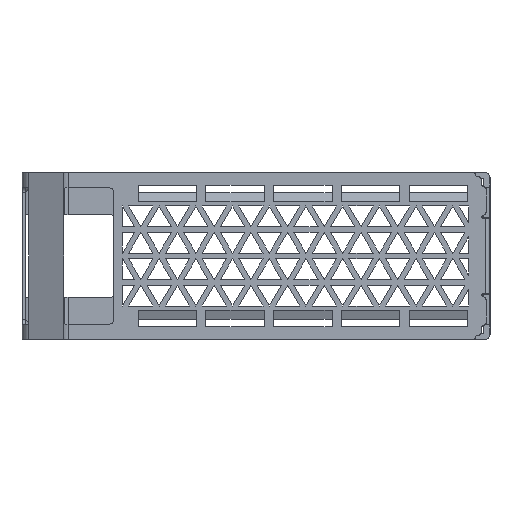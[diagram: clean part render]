
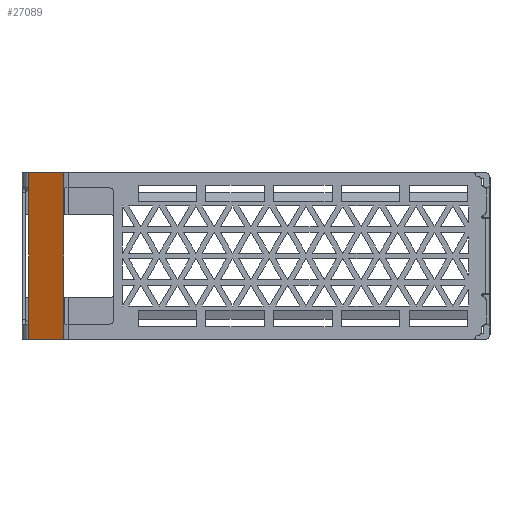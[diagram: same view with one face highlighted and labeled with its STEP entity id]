
A CAD part, left-side view. The second image highlights one B-rep face of the part: STEP entity #27089.
In plain terms, the highlighted planar face has unit normal (-0.905, 0.426, 0).
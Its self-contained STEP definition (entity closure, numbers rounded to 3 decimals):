
#1499 = VECTOR ( 'NONE', #13728, 1000. ) ;
#2578 = CARTESIAN_POINT ( 'NONE',  ( -60.051, 52.801, -9.9 ) ) ;
#5395 = EDGE_CURVE ( 'NONE', #8699, #24041, #10703, .T. ) ;
#5432 = EDGE_CURVE ( 'NONE', #25143, #12051, #15614, .T. ) ;
#5707 = ORIENTED_EDGE ( 'NONE', *, *, #5954, .T. ) ;
#5954 = EDGE_CURVE ( 'NONE', #25143, #24041, #16552, .T. ) ;
#6860 = CARTESIAN_POINT ( 'NONE',  ( -58.359, 56.393, -9.9 ) ) ;
#7561 = CARTESIAN_POINT ( 'NONE',  ( -58.359, 56.393, 16.3 ) ) ;
#7692 = EDGE_CURVE ( 'NONE', #16804, #8699, #17596, .T. ) ;
#7853 = VECTOR ( 'NONE', #9396, 1000. ) ;
#7967 = VECTOR ( 'NONE', #23390, 1000. ) ;
#8060 = AXIS2_PLACEMENT_3D ( 'NONE', #2578, #32628, #9685 ) ;
#8699 = VERTEX_POINT ( 'NONE', #7561 ) ;
#9396 = DIRECTION ( 'NONE',  ( 0., 0., 1. ) ) ;
#9685 = DIRECTION ( 'NONE',  ( 0., 0., 1. ) ) ;
#10703 = LINE ( 'NONE', #16102, #1499 ) ;
#11453 = CARTESIAN_POINT ( 'NONE',  ( -62.233, 48.169, -20. ) ) ;
#11498 = DIRECTION ( 'NONE',  ( 0.426, 0.905, 0. ) ) ;
#11768 = VECTOR ( 'NONE', #11498, 1000. ) ;
#12051 = VERTEX_POINT ( 'NONE', #11453 ) ;
#12564 = CARTESIAN_POINT ( 'NONE',  ( -62.233, 48.169, 20. ) ) ;
#13728 = DIRECTION ( 'NONE',  ( 0., 0., 1. ) ) ;
#13958 = DIRECTION ( 'NONE',  ( 0.426, 0.905, 0. ) ) ;
#14495 = VECTOR ( 'NONE', #22844, 1000. ) ;
#15614 = LINE ( 'NONE', #20838, #7967 ) ;
#15969 = ORIENTED_EDGE ( 'NONE', *, *, #7692, .F. ) ;
#16102 = CARTESIAN_POINT ( 'NONE',  ( -58.359, 56.393, -9.9 ) ) ;
#16552 = LINE ( 'NONE', #24336, #11768 ) ;
#16804 = VERTEX_POINT ( 'NONE', #26262 ) ;
#17596 = LINE ( 'NONE', #27574, #14495 ) ;
#17896 = ORIENTED_EDGE ( 'NONE', *, *, #31337, .F. ) ;
#18219 = CARTESIAN_POINT ( 'NONE',  ( -58.359, 56.393, -20. ) ) ;
#18687 = CARTESIAN_POINT ( 'NONE',  ( -60.051, 52.801, -20. ) ) ;
#18955 = ORIENTED_EDGE ( 'NONE', *, *, #23207, .F. ) ;
#19697 = LINE ( 'NONE', #6860, #7853 ) ;
#20351 = VECTOR ( 'NONE', #13958, 1000. ) ;
#20497 = VERTEX_POINT ( 'NONE', #18219 ) ;
#20838 = CARTESIAN_POINT ( 'NONE',  ( -62.233, 48.169, -9.9 ) ) ;
#21737 = LINE ( 'NONE', #18687, #20351 ) ;
#22520 = PLANE ( 'NONE',  #8060 ) ;
#22844 = DIRECTION ( 'NONE',  ( 0., 0., 1. ) ) ;
#22859 = FACE_OUTER_BOUND ( 'NONE', #28905, .T. ) ;
#23207 = EDGE_CURVE ( 'NONE', #12051, #20497, #21737, .T. ) ;
#23390 = DIRECTION ( 'NONE',  ( 0., 0., -1. ) ) ;
#24041 = VERTEX_POINT ( 'NONE', #26196 ) ;
#24336 = CARTESIAN_POINT ( 'NONE',  ( -64.492, 43.372, 20. ) ) ;
#25143 = VERTEX_POINT ( 'NONE', #12564 ) ;
#26196 = CARTESIAN_POINT ( 'NONE',  ( -58.359, 56.393, 20. ) ) ;
#26262 = CARTESIAN_POINT ( 'NONE',  ( -58.359, 56.393, -16.3 ) ) ;
#27089 = ADVANCED_FACE ( 'NONE', ( #22859 ), #22520, .T. ) ;
#27574 = CARTESIAN_POINT ( 'NONE',  ( -58.359, 56.393, -9.9 ) ) ;
#27850 = ORIENTED_EDGE ( 'NONE', *, *, #5395, .F. ) ;
#28881 = ORIENTED_EDGE ( 'NONE', *, *, #5432, .F. ) ;
#28905 = EDGE_LOOP ( 'NONE', ( #18955, #28881, #5707, #27850, #15969, #17896 ) ) ;
#31337 = EDGE_CURVE ( 'NONE', #20497, #16804, #19697, .T. ) ;
#32628 = DIRECTION ( 'NONE',  ( -0.905, 0.426, 0. ) ) ;
